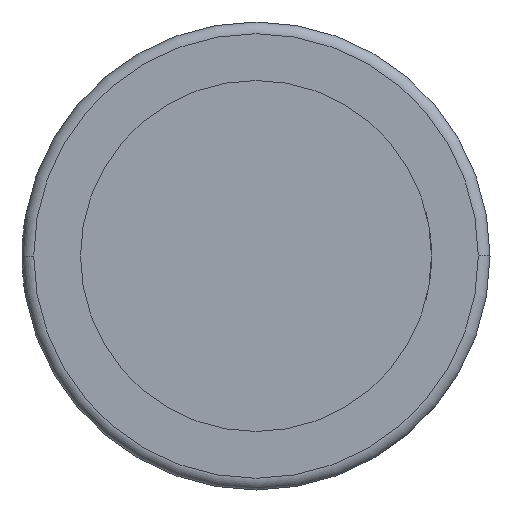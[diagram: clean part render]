
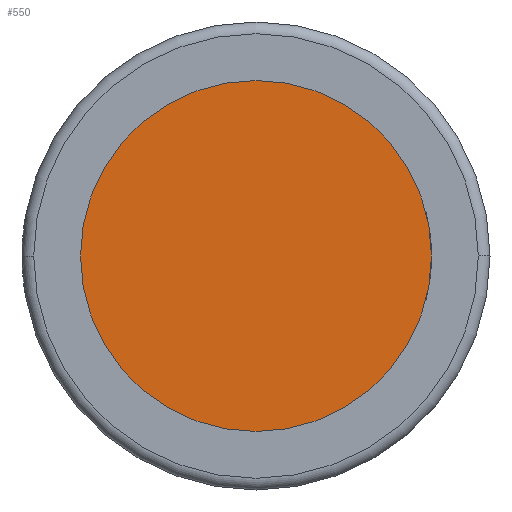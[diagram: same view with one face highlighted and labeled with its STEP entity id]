
A CAD part, front view. The second image highlights one B-rep face of the part: STEP entity #550.
In plain terms, the highlighted planar face has unit normal (0, -1, 0).
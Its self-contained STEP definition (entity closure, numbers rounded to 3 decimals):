
#49=CARTESIAN_POINT('',(0.,0.,0.));
#50=DIRECTION('',(0.,-1.,0.));
#51=DIRECTION('',(1.,0.,0.));
#52=AXIS2_PLACEMENT_3D('',#49,#50,#51);
#115=CARTESIAN_POINT('',(0.,0.,0.));
#116=DIRECTION('',(0.,1.,0.));
#117=DIRECTION('',(1.,0.,0.));
#118=AXIS2_PLACEMENT_3D('',#115,#116,#117);
#495=CARTESIAN_POINT('',(-3.,0.,0.));
#497=VERTEX_POINT('',#495);
#499=CARTESIAN_POINT('',(3.,0.,0.));
#500=VERTEX_POINT('',#499);
#539=CARTESIAN_POINT('',(0.,0.,0.));
#540=DIRECTION('',(0.,-1.,0.));
#541=DIRECTION('',(-1.,0.,0.));
#542=AXIS2_PLACEMENT_3D('',#539,#540,#541);
#543=PLANE('',#542);
#545=ORIENTED_EDGE('',*,*,#544,.F.);
#547=ORIENTED_EDGE('',*,*,#546,.T.);
#548=EDGE_LOOP('',(#545,#547));
#549=FACE_OUTER_BOUND('',#548,.F.);
#53=CIRCLE('',#52,3.);
#119=CIRCLE('',#118,3.);
#544=EDGE_CURVE('',#500,#497,#53,.T.);
#546=EDGE_CURVE('',#500,#497,#119,.T.);
#550=ADVANCED_FACE('',(#549),#543,.T.);
